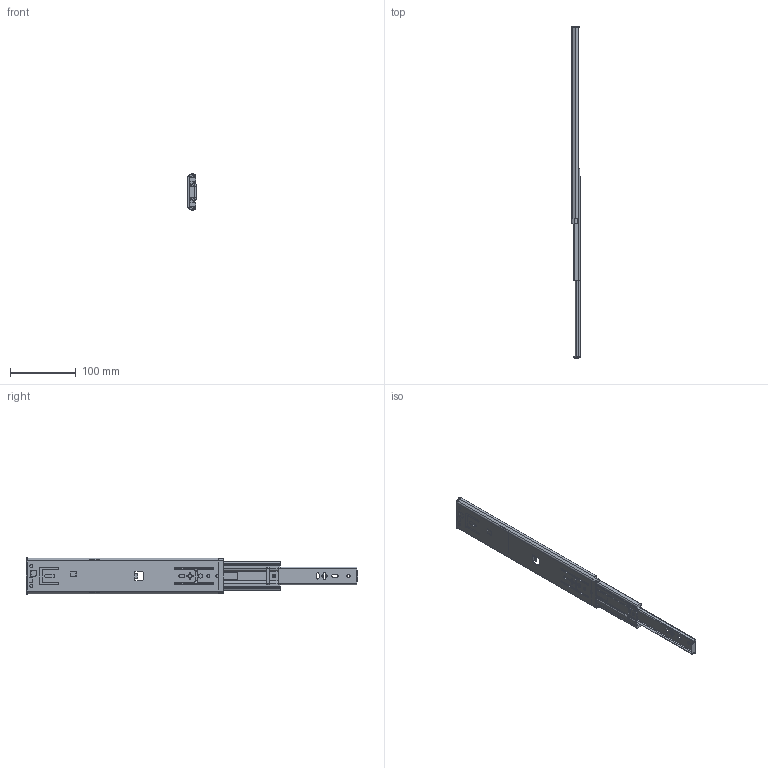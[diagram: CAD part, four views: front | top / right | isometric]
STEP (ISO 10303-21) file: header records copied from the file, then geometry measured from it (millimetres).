
FILE_DESCRIPTION( ( 'Unknown' ), '1' );
FILE_NAME( 'C:/Users/rd30/Desktop/85A01-300-Open.stp', 'Unknown', ( 'Unknown' ), ( 'Unknown' ), 'PSStep 14.0', 'Unknown', ' ' );
FILE_SCHEMA( ( 'AUTOMOTIVE_DESIGN { 1 0 10303 214 1 1 1 1 }' ) );
Length unit declared in the file: millimetre
Products named in the file (8): P10-366-3-1; P10-367-130429; 本體(卡式)20130423-\X2\4FEE6A21571\X0\; Assem1; 85A01P30-04-300; 85A01P30-04-B; 85A01P11-02-300; 85A01P21-03-300
Assembly tree (7 placements, depth 3):
  Assem1
    85A01P30-04-300
    85A01P30-04-B
    85A01P11-02-300
    85A01P21-03-300
    P10-366-3-1
      P10-367-130429
      本體(卡式)20130423-\X2\4FEE6A21571\X0\
Bounding box: 12.6 x 503.81 x 55.37 mm (x, y, z)
Volume: 119148.4 mm3; surface area: 95118.2 mm2
Topology: 6 solids, 6 shells, 531 faces, 1502 edges, 981 vertices
Faces by surface type: plane 265, cylinder 222, torus 24, cone 16, bspline 2, sphere 2
Full cylindrical faces by diameter (mm): 1.4 x1, 3 x1, 3.2 x1, 4.6 x1, 5 x4, 5.1 x1, 5.5 x1, 6.25 x1, 6.4 x1
Entity records: 21946 total; most frequent: CARTESIAN_POINT 3296, DIRECTION 2996, ORIENTED_EDGE 2950, EDGE_CURVE 1475, AXIS2_PLACEMENT_3D 1035, VERTEX_POINT 971, LINE 926, VECTOR 926
